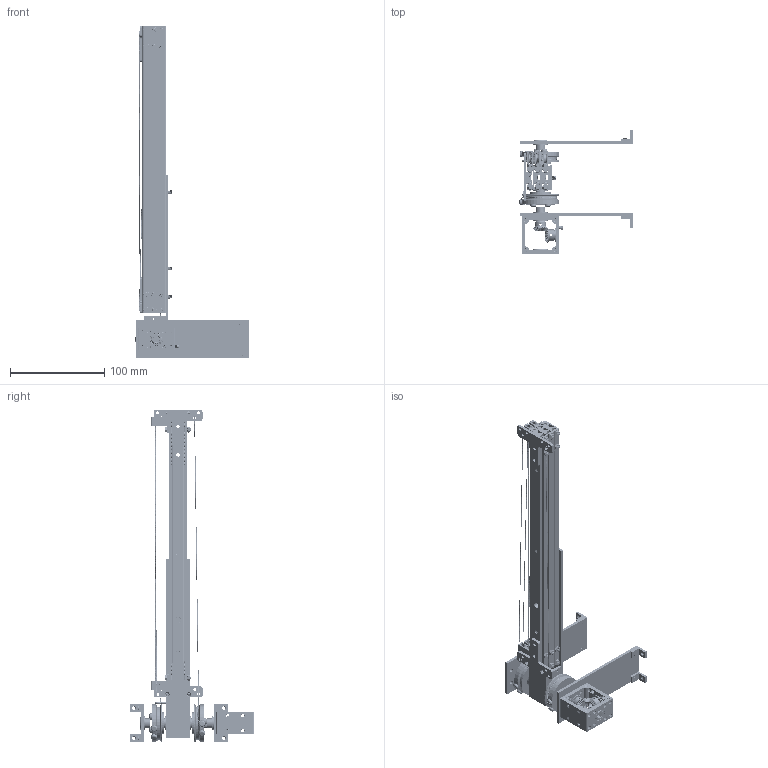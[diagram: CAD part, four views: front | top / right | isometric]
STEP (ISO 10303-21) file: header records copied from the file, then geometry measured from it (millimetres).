
FILE_DESCRIPTION( ('This file contains a STEP AP42 implementation' ,'as created by ZW3D STEP Interface translator.') ,'2;1' );
FILE_NAME( 'DemoContinuousRigging_Crane.stp' ,'24 123. 02110', (''), ('ZWCAD Software Co.'), 'Version 1.0', 'ZW3D to STEP translator', '' );
FILE_SCHEMA(('AUTOMOTIVE_DESIGN { 1 0 10303 214 1 1 1 1 }'));
Length unit declared in the file: millimetre
Products named in the file (39): 0; DemoContinuousRigging_Crane; BL-300C-2M; OuterSlide300C; StopperScrew; BallBearing; PulleyModule; VPulley; NoHeadScrew001; PulleyBracketV4; PulleyModule1; M3; M2; InnerSlide300C; BL-300C-2M1; PulleyModule2; PulleyModule3; BL-300C-2M2; PulleyModule4; PulleyModule5; M4-6-5.5; StringHolder; SlideHolder; M4-8-5.5; SlideTower; OneHoleL_Beam; BL-GearBoxWithGears; M0.7T22BevelGear; 1611-0514-4008-Hex; BL-GearBox3; 1611-0514-0006-BB6; Pulley1; BL-7mmHexAdapter; 8mmSpace1mm; M4Button; 8mmSpacer5mm; M3Waher; M3SelfTapping; EyeBolt
Assembly tree (231 placements, depth 4):
  0
  DemoContinuousRigging_Crane
    BL-300C-2M
      OuterSlide300C
      StopperScrew  x8
      BallBearing  x30
      PulleyModule
        VPulley
        NoHeadScrew001
        PulleyBracketV4
      PulleyModule1
        VPulley
        NoHeadScrew001
        PulleyBracketV4
      M3  x8
      M2  x2
      InnerSlide300C
    BL-300C-2M1
      OuterSlide300C
      StopperScrew  x8
      BallBearing  x30
      PulleyModule2
        VPulley
        NoHeadScrew001
        PulleyBracketV4
      PulleyModule3
        VPulley
        NoHeadScrew001
        PulleyBracketV4
      M3  x8
      M2  x2
      InnerSlide300C
    BL-300C-2M2
      OuterSlide300C
      StopperScrew  x8
      BallBearing  x30
      PulleyModule4
        VPulley
        NoHeadScrew001
        PulleyBracketV4
      PulleyModule5
        VPulley
        NoHeadScrew001
        PulleyBracketV4
      M3  x8
      M2  x2
      InnerSlide300C
    M4-6-5.5  x12
    StringHolder  x2
    SlideHolder
    M4-8-5.5  x3
    SlideTower  x2
    OneHoleL_Beam  x4
    BL-GearBoxWithGears
      M0.7T22BevelGear
      1611-0514-4008-Hex  x2
      BL-GearBox3
      1611-0514-0006-BB6
      M4-8-5.5
    1611-0514-4008-Hex  x4
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Bounding box: 120.28 x 131.64 x 352.26 mm (x, y, z)
Volume: 201533 mm3; surface area: 210525.1 mm2
Topology: 260 solids, 266 shells, 8806 faces, 23506 edges, 15011 vertices
Faces by surface type: cylinder 3510, bspline 2247, plane 1376, cone 1248, torus 245, sphere 180
Full cylindrical faces by diameter (mm): 2 x104, 2.4 x4, 2.5 x228, 3 x326, 3.05 x12, 3.3 x206, 3.5 x74, 3.6 x193, 4 x168, 6 x12, 6.8 x8, 7 x1, 8 x4, 10 x6, 12.232 x2, 14 x7, 23 x2, 35.02 x2, 40 x4
Entity records: 439113 total; most frequent: CARTESIAN_POINT 359338, ORIENTED_EDGE 21076, EDGE_CURVE 10537, DIRECTION 8935, VERTEX_POINT 6838, B_SPLINE_CURVE_WITH_KNOTS 4510, EDGE_LOOP 4029, FACE_OUTER_BOUND 3764
